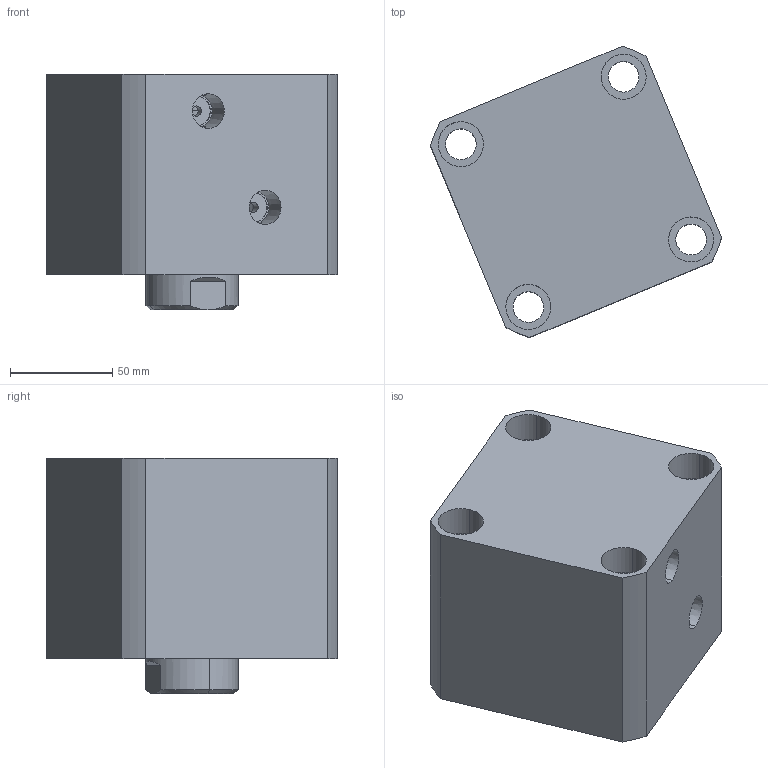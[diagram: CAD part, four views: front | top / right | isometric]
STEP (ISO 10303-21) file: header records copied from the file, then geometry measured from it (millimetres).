
FILE_DESCRIPTION (( 'STEP AP214' ), '1' );
FILE_NAME ('chtb-sd80x20n_asm.STEP', '2018-05-26T07:02:21', ( 'Windows' ), ( 'Microsoft' ), 'SwSTEP 2.0', 'SolidWorks 2015', '' );
FILE_SCHEMA (( 'AUTOMOTIVE_DESIGN' ));
Length unit declared in the file: millimetre
Products named in the file (4): CHTB-SD80X20NHSG; CHTB-SD80X20NBT; CHTB-SD80QG; chtb-sd80x20n_asm
Assembly tree (3 placements, depth 2):
  chtb-sd80x20n_asm
    CHTB-SD80QG
    CHTB-SD80X20NBT
    CHTB-SD80X20NHSG
Bounding box: 142.06 x 142.06 x 115 mm (x, y, z)
Volume: 1079341.2 mm3; surface area: 170185.1 mm2
Topology: 3 solids, 3 shells, 192 faces, 510 edges, 341 vertices
Faces by surface type: cylinder 103, plane 37, cone 20, torus 18, bspline 14
Entity records: 15144 total; most frequent: CARTESIAN_POINT 10435, ORIENTED_EDGE 1008, DIRECTION 889, EDGE_CURVE 504, AXIS2_PLACEMENT_3D 374, VERTEX_POINT 341, EDGE_LOOP 229, FACE_OUTER_BOUND 192
